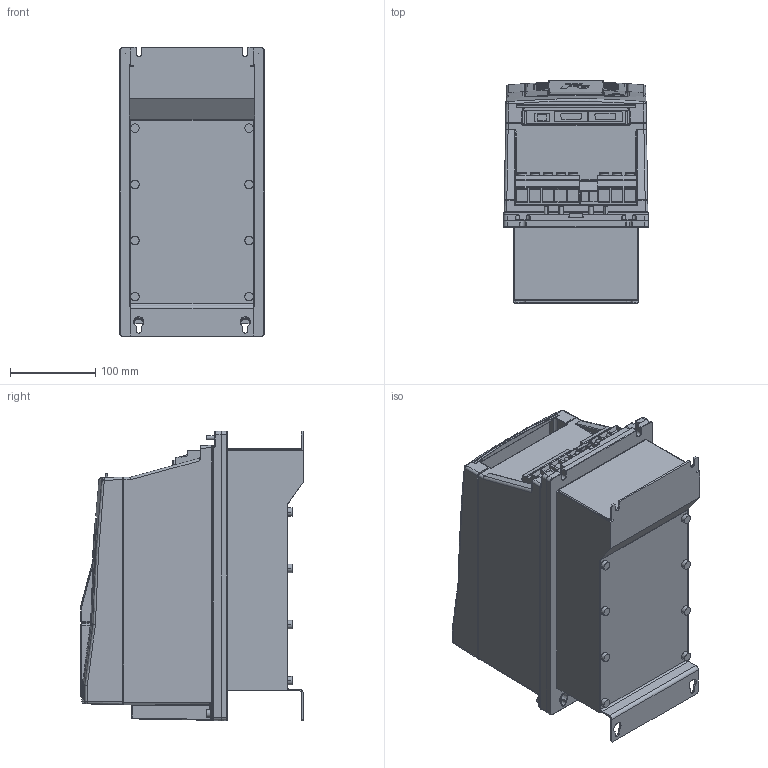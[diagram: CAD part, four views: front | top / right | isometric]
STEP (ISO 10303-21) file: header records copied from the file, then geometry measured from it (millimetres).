
FILE_DESCRIPTION (( 'STEP AP214' ), '1' );
FILE_NAME ('10036505_000.STEP', '2020-11-09T10:45:38', ( '' ), ( '' ), 'SwSTEP 2.0', 'SolidWorks 2019', '' );
FILE_SCHEMA (( 'AUTOMOTIVE_DESIGN' ));
Length unit declared in the file: millimetre
Products named in the file (9): 10040482_000_Kundenmodell; 10036505_000; 10036504_000_Leistungsteil TR0 (Kundenmodell); 10059765_000; 10059764_000_Blindabdeckung (Kundenmodell); 10058413_000; 10060393_000; 10060392_000; 10035735_000_Kundenmodell
Assembly tree (8 placements, depth 4):
  10036505_000
    10036504_000_Leistungsteil TR0 (Kundenmodell)
      10060392_000
    10040482_000_Kundenmodell
      10060393_000
    10035735_000_Kundenmodell
      10059764_000_Blindabdeckung (Kundenmodell)
        10059765_000
      10058413_000
Bounding box: 170 x 260.96 x 340 mm (x, y, z)
Volume: 10577506.7 mm3; surface area: 629364.2 mm2
Topology: 11 solids, 69 shells, 2427 faces, 6056 edges, 3786 vertices
Faces by surface type: plane 1067, cylinder 768, bspline 347, cone 111, torus 84, sphere 50
Entity records: 81187 total; most frequent: CARTESIAN_POINT 26506, ORIENTED_EDGE 11984, DIRECTION 10387, EDGE_CURVE 5992, VERTEX_POINT 3786, AXIS2_PLACEMENT_3D 3626, LINE 3135, VECTOR 3135
